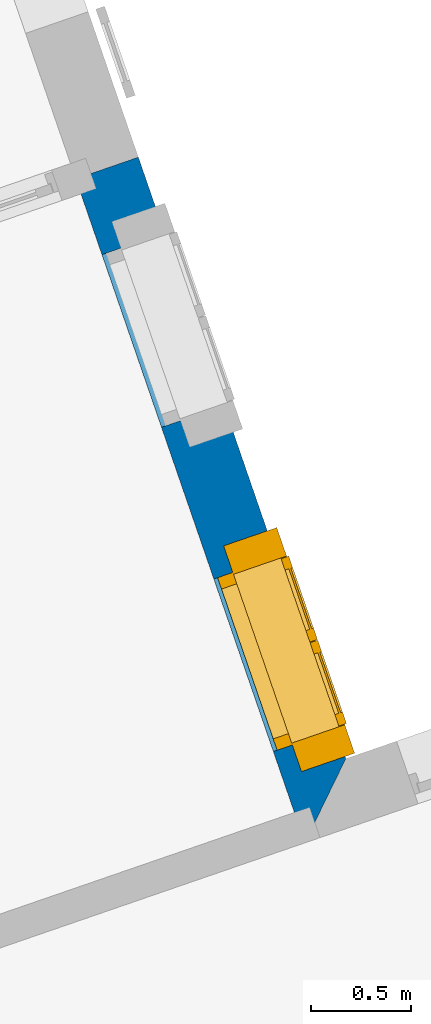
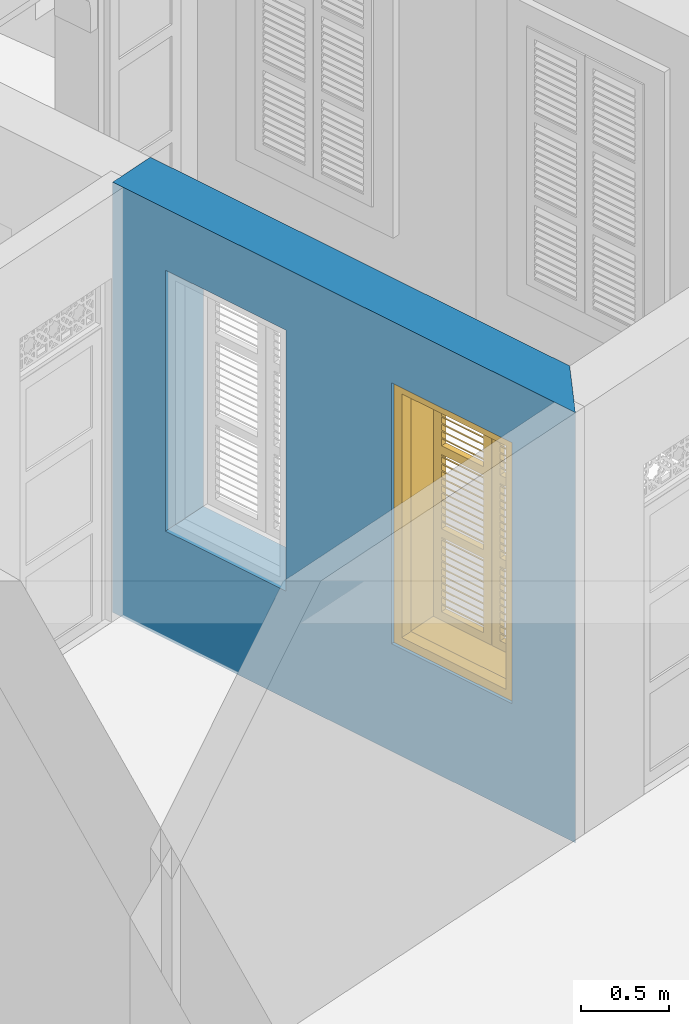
# One storey, part 7 of 16: 1 wall, 1 window, 2 openings.
"""IFC4 building model written with IfcOpenShell, lengths in metres."""

from ifc_helpers import new_model, si_unit, frame, origin, origin_with_axes, place, context, subcontext, project, spatial, polyline, outline, extrude, faceted_brep, source, transform, mapped, material, layer, layer_set, layer_usage, type_object, type_shapes, element, fill, save


model = new_model("IFC4")

# Units and contexts
model_context = context("Model", 3, world=origin_with_axes())
body_context = subcontext(model_context, "Body", "Model", "MODEL_VIEW")
ifc_project = project(units=[si_unit("PLANEANGLEUNIT", "RADIAN"), si_unit("MASSUNIT", "GRAM", prefix="KILO"), si_unit("FORCEUNIT", "NEWTON", prefix="KILO"), si_unit("LENGTHUNIT", "METRE"), si_unit("AREAUNIT", "SQUARE_METRE"), si_unit("VOLUMEUNIT", "CUBIC_METRE")], contexts=[model_context, model_context])

# Site, building, storey
site_placement = place(None, origin_with_axes())
site = spatial("IfcSite", under=ifc_project, at=site_placement, Name="Site plot-8", CompositionType="ELEMENT")
building_placement = place(None, origin_with_axes())
building = spatial("IfcBuilding", under=site, at=building_placement, Name="Building plot-8", CompositionType="ELEMENT")
storey_placement = place(None, origin_with_axes())
storey = spatial("IfcBuildingStorey", under=building, at=storey_placement, Name="plot-8 0", CompositionType="ELEMENT", Elevation=0.0)

# Wall, openings, window
ifc_material = material(Name="Masonry")
ifc_layer = layer(ifc_material, 0.33, ventilated=False)
ifc_layer_set = layer_set([ifc_layer], Name="exterior_0.08_0.25")
ifc_layer_usage = layer_usage(ifc_layer_set, "AXIS2", "POSITIVE", -0.25)
wall_type = type_object("IfcWallType", Name="exterior_0.08_0.25", PredefinedType="SOLIDWALL", material=ifc_layer_set)
wall_placement = place(storey_placement, frame((-9.69136528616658, 15.0297125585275, 0.0), z_axis=(0.0, 0.0, 1.0), x_axis=(-0.326112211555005, 0.945331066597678, 0.0)))
wall = element("IfcWall", 1, at=wall_placement, inside=storey, type_object=wall_type, material=ifc_layer_usage, Name="exterior", context=body_context, shape_type="SweptSolid", body=[
    extrude(outline(polyline([(-0.0799999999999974, 0.0799999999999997), (0.249999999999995, -0.250000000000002), (3.42187846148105, -0.25), (3.42187846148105, 0.0800000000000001), (-0.0799999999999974, 0.0799999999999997)])), origin_with_axes(), (0.0, 0.0, 1.0), 3.0),
])
opening_1_placement = place(wall_placement, frame((0.401408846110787, 0.0, 0.75)))
opening_1 = element("IfcOpeningElement", 2, at=opening_1_placement, cuts=wall, Name="My Opening", ObjectType="Opening", context=body_context, shape_type="SweptSolid", body=[
    extrude(outline(polyline([(0.0, -0.27), (0.909999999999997, -0.269999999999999), (0.909999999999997, 1.1), (-7.21644966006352e-16, 1.1), (0.0, -0.27)])), origin_with_axes(), (0.0, 0.0, 1.0), 1.82),
])
opening_2_placement = place(wall_placement, frame((2.11140884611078, 0.0, 0.75)))
element("IfcOpeningElement", 3, at=opening_2_placement, cuts=wall, Name="My Opening", ObjectType="Opening", context=body_context, shape_type="SweptSolid", body=[
    extrude(outline(polyline([(0.0, -0.269999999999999), (0.909999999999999, -0.269999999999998), (0.91, 1.1), (1.33226762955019e-15, 1.1), (0.0, -0.269999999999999)])), origin_with_axes(), (0.0, 0.0, 1.0), 1.82),
])
window_type = type_object("IfcWindowType", Name="shuttered_big", PartitioningType="DOUBLE_PANEL_HORIZONTAL", PredefinedType="NOTDEFINED")
shared_shape = source(origin(), body_context, "Body", "Brep", [
    faceted_brep([(0.074, 0.0, 0.810667), (0.393, 0.0, 0.810667), (0.393, 0.0, 0.800667), (0.074, 0.0, 0.800667), (0.074, -0.04, 0.770667), (0.393, -0.04, 0.770667), (0.393, -0.04, 0.760667), (0.074, -0.04, 0.760667), (0.517, 0.0, 0.232), (0.836, 0.0, 0.232), (0.836, 0.0, 0.222), (0.517, 0.0, 0.222), (0.517, -0.04, 0.192), (0.836, -0.04, 0.192), (0.836, -0.04, 0.182), (0.517, -0.04, 0.182), (0.517, 0.0, 0.532), (0.836, 0.0, 0.532), (0.836, 0.0, 0.522), (0.517, 0.0, 0.522), (0.517, -0.04, 0.492), (0.836, -0.04, 0.492), (0.836, -0.04, 0.482), (0.517, -0.04, 0.482), (0.517, 0.0, 0.482), (0.836, 0.0, 0.482), (0.836, 0.0, 0.472), (0.517, 0.0, 0.472), (0.517, -0.04, 0.442), (0.836, -0.04, 0.442), (0.836, -0.04, 0.432), (0.517, -0.04, 0.432), (0.517, 0.0, 0.582), (0.836, 0.0, 0.582), (0.836, 0.0, 0.572), (0.517, 0.0, 0.572), (0.517, -0.04, 0.542), (0.836, -0.04, 0.542), (0.836, -0.04, 0.532), (0.517, -0.04, 0.532), (0.517, 0.0, 0.182), (0.836, 0.0, 0.182), (0.836, 0.0, 0.172), (0.517, 0.0, 0.172), (0.517, -0.04, 0.142), (0.836, -0.04, 0.142), (0.836, -0.04, 0.132), (0.517, -0.04, 0.132), (0.517, 0.0, 0.382), (0.836, 0.0, 0.382), (0.836, 0.0, 0.372), (0.517, 0.0, 0.372), (0.517, -0.04, 0.342), (0.836, -0.04, 0.342), (0.836, -0.04, 0.332), (0.517, -0.04, 0.332), (0.517, 0.0, 0.432), (0.836, 0.0, 0.432), (0.836, 0.0, 0.422), (0.517, 0.0, 0.422), (0.517, -0.04, 0.392), (0.836, -0.04, 0.392), (0.836, -0.04, 0.382), (0.517, -0.04, 0.382), (0.517, 0.0, 0.132), (0.836, 0.0, 0.132), (0.836, 0.0, 0.122), (0.517, 0.0, 0.122), (0.517, -0.04, 0.092), (0.836, -0.04, 0.092), (0.836, -0.04, 0.082), (0.517, -0.04, 0.082), (0.517, 0.0, 0.282), (0.836, 0.0, 0.282), (0.836, 0.0, 0.272), (0.517, 0.0, 0.272), (0.517, -0.04, 0.242), (0.836, -0.04, 0.242), (0.836, -0.04, 0.232), (0.517, -0.04, 0.232), (0.517, 0.0, 0.332), (0.836, 0.0, 0.332), (0.836, 0.0, 0.322), (0.517, 0.0, 0.322), (0.517, -0.04, 0.292), (0.836, -0.04, 0.292), (0.836, -0.04, 0.282), (0.517, -0.04, 0.282), (0.517, 0.0, 0.810667), (0.836, 0.0, 0.810667), (0.836, 0.0, 0.800667), (0.517, 0.0, 0.800667), (0.517, -0.04, 0.770667), (0.836, -0.04, 0.770667), (0.836, -0.04, 0.760667), (0.517, -0.04, 0.760667), (0.517, 0.0, 1.110667), (0.836, 0.0, 1.110667), (0.836, 0.0, 1.100667), (0.517, 0.0, 1.100667), (0.517, -0.04, 1.070667), (0.836, -0.04, 1.070667), (0.836, -0.04, 1.060667), (0.517, -0.04, 1.060667), (0.517, 0.0, 1.060667), (0.836, 0.0, 1.060667), (0.836, 0.0, 1.050667), (0.517, 0.0, 1.050667), (0.517, -0.04, 1.020667), (0.836, -0.04, 1.020667), (0.836, -0.04, 1.010667), (0.517, -0.04, 1.010667), (0.517, 0.0, 1.160667), (0.836, 0.0, 1.160667), (0.836, 0.0, 1.150667), (0.517, 0.0, 1.150667), (0.517, -0.04, 1.120667), (0.836, -0.04, 1.120667), (0.836, -0.04, 1.110667), (0.517, -0.04, 1.110667), (0.517, 0.0, 0.760667), (0.836, 0.0, 0.760667), (0.836, 0.0, 0.750667), (0.517, 0.0, 0.750667), (0.517, -0.04, 0.720667), (0.836, -0.04, 0.720667), (0.836, -0.04, 0.710667), (0.517, -0.04, 0.710667), (0.517, 0.0, 0.960667), (0.836, 0.0, 0.960667), (0.836, 0.0, 0.950667), (0.517, 0.0, 0.950667), (0.517, -0.04, 0.920667), (0.836, -0.04, 0.920667), (0.836, -0.04, 0.910667), (0.517, -0.04, 0.910667), (0.517, 0.0, 1.010667), (0.836, 0.0, 1.010667), (0.836, 0.0, 1.0), (0.517, 0.0, 1.0), (0.517, -0.04, 0.970667), (0.836, -0.04, 0.970667), (0.836, -0.04, 0.960667), (0.517, -0.04, 0.960667), (0.517, 0.0, 0.710667), (0.836, 0.0, 0.710667), (0.836, 0.0, 0.700667), (0.517, 0.0, 0.700667), (0.517, -0.04, 0.670667), (0.836, -0.04, 0.670667), (0.836, -0.04, 0.660667), (0.517, -0.04, 0.660667), (0.517, 0.0, 0.860667), (0.836, 0.0, 0.860667), (0.836, 0.0, 0.850667), (0.517, 0.0, 0.850667), (0.517, -0.04, 0.820667), (0.836, -0.04, 0.820667), (0.836, -0.04, 0.810667), (0.517, -0.04, 0.810667), (0.517, 0.0, 0.910667), (0.836, 0.0, 0.910667), (0.836, 0.0, 0.900667), (0.517, 0.0, 0.900667), (0.517, -0.04, 0.870667), (0.836, -0.04, 0.870667), (0.836, -0.04, 0.860667), (0.517, -0.04, 0.860667), (0.517, 0.0, 1.389333), (0.836, 0.0, 1.389333), (0.836, 0.0, 1.379333), (0.517, 0.0, 1.379333), (0.517, -0.04, 1.349333), (0.836, -0.04, 1.349333), (0.836, -0.04, 1.339333), (0.517, -0.04, 1.339333), (0.517, 0.0, 1.689333), (0.836, 0.0, 1.689333), (0.836, 0.0, 1.679333), (0.517, 0.0, 1.679333), (0.517, -0.04, 1.649333), (0.836, -0.04, 1.649333), (0.836, -0.04, 1.639333), (0.517, -0.04, 1.639333), (0.517, 0.0, 1.639333), (0.836, 0.0, 1.639333), (0.836, 0.0, 1.629333), (0.517, 0.0, 1.629333), (0.517, -0.04, 1.599333), (0.836, -0.04, 1.599333), (0.836, -0.04, 1.589333), (0.517, -0.04, 1.589333), (0.517, 0.0, 1.739333), (0.836, 0.0, 1.739333), (0.836, 0.0, 1.729333), (0.517, 0.0, 1.729333), (0.517, -0.04, 1.699333), (0.836, -0.04, 1.699333), (0.836, -0.04, 1.689333), (0.517, -0.04, 1.689333), (0.517, 0.0, 1.339333), (0.836, 0.0, 1.339333), (0.836, 0.0, 1.329333), (0.517, 0.0, 1.329333), (0.517, -0.04, 1.299333), (0.836, -0.04, 1.299333), (0.836, -0.04, 1.289333), (0.517, -0.04, 1.289333), (0.517, 0.0, 1.539333), (0.836, 0.0, 1.539333), (0.836, 0.0, 1.529333), (0.517, 0.0, 1.529333), (0.517, -0.04, 1.499333), (0.836, -0.04, 1.499333), (0.836, -0.04, 1.489333), (0.517, -0.04, 1.489333), (0.517, 0.0, 1.589333), (0.836, 0.0, 1.589333), (0.836, 0.0, 1.579333), (0.517, 0.0, 1.579333), (0.517, -0.04, 1.549333), (0.836, -0.04, 1.549333), (0.836, -0.04, 1.539333), (0.517, -0.04, 1.539333), (0.517, 0.0, 1.289333), (0.836, 0.0, 1.289333), (0.836, 0.0, 1.279333), (0.517, 0.0, 1.279333), (0.517, -0.04, 1.249333), (0.836, -0.04, 1.249333), (0.836, -0.04, 1.239333), (0.517, -0.04, 1.239333), (0.517, 0.0, 1.439333), (0.836, 0.0, 1.439333), (0.836, 0.0, 1.429333), (0.517, 0.0, 1.429333), (0.517, -0.04, 1.399333), (0.836, -0.04, 1.399333), (0.836, -0.04, 1.389333), (0.517, -0.04, 1.389333), (0.517, 0.0, 1.489333), (0.836, 0.0, 1.489333), (0.836, 0.0, 1.479333), (0.517, 0.0, 1.479333), (0.517, -0.04, 1.449333), (0.836, -0.04, 1.449333), (0.836, -0.04, 1.439333), (0.517, -0.04, 1.439333), (0.074, 0.0, 0.232), (0.393, 0.0, 0.232), (0.393, 0.0, 0.222), (0.074, 0.0, 0.222), (0.074, -0.04, 0.192), (0.393, -0.04, 0.192), (0.393, -0.04, 0.182), (0.074, -0.04, 0.182), (0.074, 0.0, 0.532), (0.393, 0.0, 0.532), (0.393, 0.0, 0.522), (0.074, 0.0, 0.522), (0.074, -0.04, 0.492), (0.393, -0.04, 0.492), (0.393, -0.04, 0.482), (0.074, -0.04, 0.482), (0.074, 0.0, 0.482), (0.393, 0.0, 0.482), (0.393, 0.0, 0.472), (0.074, 0.0, 0.472), (0.074, -0.04, 0.442), (0.393, -0.04, 0.442), (0.393, -0.04, 0.432), (0.074, -0.04, 0.432), (0.074, 0.0, 0.582), (0.393, 0.0, 0.582), (0.393, 0.0, 0.572), (0.074, 0.0, 0.572), (0.074, -0.04, 0.542), (0.393, -0.04, 0.542), (0.393, -0.04, 0.532), (0.074, -0.04, 0.532), (0.074, 0.0, 0.182), (0.393, 0.0, 0.182), (0.393, 0.0, 0.172), (0.074, 0.0, 0.172), (0.074, -0.04, 0.142), (0.393, -0.04, 0.142), (0.393, -0.04, 0.132), (0.074, -0.04, 0.132), (0.074, 0.0, 0.382), (0.393, 0.0, 0.382), (0.393, 0.0, 0.372), (0.074, 0.0, 0.372), (0.074, -0.04, 0.342), (0.393, -0.04, 0.342), (0.393, -0.04, 0.332), (0.074, -0.04, 0.332), (0.074, 0.0, 0.432), (0.393, 0.0, 0.432), (0.393, 0.0, 0.422), (0.074, 0.0, 0.422), (0.074, -0.04, 0.392), (0.393, -0.04, 0.392), (0.393, -0.04, 0.382), (0.074, -0.04, 0.382), (0.074, 0.0, 0.132), (0.393, 0.0, 0.132), (0.393, 0.0, 0.122), (0.074, 0.0, 0.122), (0.074, -0.04, 0.092), (0.393, -0.04, 0.092), (0.393, -0.04, 0.082), (0.074, -0.04, 0.082), (0.074, 0.0, 0.282), (0.393, 0.0, 0.282), (0.393, 0.0, 0.272), (0.074, 0.0, 0.272), (0.074, -0.04, 0.242), (0.393, -0.04, 0.242), (0.393, -0.04, 0.232), (0.074, -0.04, 0.232), (0.074, 0.0, 0.332), (0.393, 0.0, 0.332), (0.393, 0.0, 0.322), (0.074, 0.0, 0.322), (0.074, -0.04, 0.292), (0.393, -0.04, 0.292), (0.393, -0.04, 0.282), (0.074, -0.04, 0.282), (0.074, 0.0, 1.110667), (0.393, 0.0, 1.110667), (0.393, 0.0, 1.100667), (0.074, 0.0, 1.100667), (0.074, -0.04, 1.070667), (0.393, -0.04, 1.070667), (0.393, -0.04, 1.060667), (0.074, -0.04, 1.060667), (0.074, 0.0, 1.060667), (0.393, 0.0, 1.060667), (0.393, 0.0, 1.050667), (0.074, 0.0, 1.050667), (0.074, -0.04, 1.020667), (0.393, -0.04, 1.020667), (0.393, -0.04, 1.010667), (0.074, -0.04, 1.010667), (0.074, 0.0, 1.160667), (0.393, 0.0, 1.160667), (0.393, 0.0, 1.150667), (0.074, 0.0, 1.150667), (0.074, -0.04, 1.120667), (0.393, -0.04, 1.120667), (0.393, -0.04, 1.110667), (0.074, -0.04, 1.110667), (0.074, 0.0, 0.760667), (0.393, 0.0, 0.760667), (0.393, 0.0, 0.750667), (0.074, 0.0, 0.750667), (0.074, -0.04, 0.720667), (0.393, -0.04, 0.720667), (0.393, -0.04, 0.710667), (0.074, -0.04, 0.710667), (0.074, 0.0, 0.960667), (0.393, 0.0, 0.960667), (0.393, 0.0, 0.950667), (0.074, 0.0, 0.950667), (0.074, -0.04, 0.920667), (0.393, -0.04, 0.920667), (0.393, -0.04, 0.910667), (0.074, -0.04, 0.910667), (0.074, 0.0, 1.010667), (0.393, 0.0, 1.010667), (0.393, 0.0, 1.0), (0.074, 0.0, 1.0), (0.074, -0.04, 0.970667), (0.393, -0.04, 0.970667), (0.393, -0.04, 0.960667), (0.074, -0.04, 0.960667), (0.074, 0.0, 0.710667), (0.393, 0.0, 0.710667), (0.393, 0.0, 0.700667), (0.074, 0.0, 0.700667), (0.074, -0.04, 0.670667), (0.393, -0.04, 0.670667), (0.393, -0.04, 0.660667), (0.074, -0.04, 0.660667), (0.074, 0.0, 0.860667), (0.393, 0.0, 0.860667), (0.393, 0.0, 0.850667), (0.074, 0.0, 0.850667), (0.074, -0.04, 0.820667), (0.393, -0.04, 0.820667), (0.393, -0.04, 0.810667), (0.074, -0.04, 0.810667), (0.074, 0.0, 0.910667), (0.393, 0.0, 0.910667), (0.393, 0.0, 0.900667), (0.074, 0.0, 0.900667), (0.074, -0.04, 0.870667), (0.393, -0.04, 0.870667), (0.393, -0.04, 0.860667), (0.074, -0.04, 0.860667), (0.074, 0.0, 1.389333), (0.393, 0.0, 1.389333), (0.393, 0.0, 1.379333), (0.074, 0.0, 1.379333), (0.074, -0.04, 1.349333), (0.393, -0.04, 1.349333), (0.393, -0.04, 1.339333), (0.074, -0.04, 1.339333), (0.074, 0.0, 1.689333), (0.393, 0.0, 1.689333), (0.393, 0.0, 1.679333), (0.074, 0.0, 1.679333), (0.074, -0.04, 1.649333), (0.393, -0.04, 1.649333), (0.393, -0.04, 1.639333), (0.074, -0.04, 1.639333), (0.074, 0.0, 1.639333), (0.393, 0.0, 1.639333), (0.393, 0.0, 1.629333), (0.074, 0.0, 1.629333), (0.074, -0.04, 1.599333), (0.393, -0.04, 1.599333), (0.393, -0.04, 1.589333), (0.074, -0.04, 1.589333), (0.074, 0.0, 1.739333), (0.393, 0.0, 1.739333), (0.393, 0.0, 1.729333), (0.074, 0.0, 1.729333), (0.074, -0.04, 1.699333), (0.393, -0.04, 1.699333), (0.393, -0.04, 1.689333), (0.074, -0.04, 1.689333), (0.074, 0.0, 1.339333), (0.393, 0.0, 1.339333), (0.393, 0.0, 1.329333), (0.074, 0.0, 1.329333), (0.074, -0.04, 1.299333), (0.393, -0.04, 1.299333), (0.393, -0.04, 1.289333), (0.074, -0.04, 1.289333), (0.074, 0.0, 1.539333), (0.393, 0.0, 1.539333), (0.393, 0.0, 1.529333), (0.074, 0.0, 1.529333), (0.074, -0.04, 1.499333), (0.393, -0.04, 1.499333), (0.393, -0.04, 1.489333), (0.074, -0.04, 1.489333), (0.074, 0.0, 1.589333), (0.393, 0.0, 1.589333), (0.393, 0.0, 1.579333), (0.074, 0.0, 1.579333), (0.074, -0.04, 1.549333), (0.393, -0.04, 1.549333), (0.393, -0.04, 1.539333), (0.074, -0.04, 1.539333), (0.074, 0.0, 1.289333), (0.393, 0.0, 1.289333), (0.393, 0.0, 1.279333), (0.074, 0.0, 1.279333), (0.074, -0.04, 1.249333), (0.393, -0.04, 1.249333), (0.393, -0.04, 1.239333), (0.074, -0.04, 1.239333), (0.074, 0.0, 1.439333), (0.393, 0.0, 1.439333), (0.393, 0.0, 1.429333), (0.074, 0.0, 1.429333), (0.074, -0.04, 1.399333), (0.393, -0.04, 1.399333), (0.393, -0.04, 1.389333), (0.074, -0.04, 1.389333), (0.074, 0.0, 1.489333), (0.393, 0.0, 1.489333), (0.393, 0.0, 1.479333), (0.074, 0.0, 1.479333), (0.074, -0.04, 1.449333), (0.393, -0.04, 1.449333), (0.393, -0.04, 1.439333), (0.074, -0.04, 1.439333), (0.517, -0.04, 0.072), (0.457, -0.04, 0.012), (0.896, -0.04, 0.012), (0.836, -0.04, 0.072), (0.457, -0.04, 0.590667), (0.517, -0.04, 0.590667), (0.457, 0.0, 0.012), (0.896, 0.0, 0.012), (0.836, -0.04, 0.590667), (0.896, -0.04, 0.590667), (0.836, 0.0, 0.072), (0.517, 0.0, 0.072), (0.457, 0.0, 0.590667), (0.517, 0.0, 0.590667), (0.517, -0.04, 0.650667), (0.457, -0.04, 0.650667), (0.896, 0.0, 0.590667), (0.836, 0.0, 0.590667), (0.836, -0.04, 0.650667), (0.896, -0.04, 0.650667), (0.457, 0.0, 0.650667), (0.457, -0.04, 1.169333), (0.517, -0.04, 1.169333), (0.896, 0.0, 0.650667), (0.836, -0.04, 1.169333), (0.896, -0.04, 1.169333), (0.457, 0.0, 1.169333), (0.517, 0.0, 0.650667), (0.836, 0.0, 0.650667), (0.517, 0.0, 1.169333), (0.517, -0.04, 1.229333), (0.457, -0.04, 1.229333), (0.896, 0.0, 1.169333), (0.836, 0.0, 1.169333), (0.836, -0.04, 1.229333), (0.896, -0.04, 1.229333), (0.457, 0.0, 1.229333), (0.517, -0.04, 1.748), (0.457, -0.04, 1.808), (0.896, 0.0, 1.229333), (0.896, -0.04, 1.808), (0.836, -0.04, 1.748), (0.457, 0.0, 1.808), (0.517, 0.0, 1.229333), (0.836, 0.0, 1.229333), (0.517, 0.0, 1.748), (0.896, 0.0, 1.808), (0.836, 0.0, 1.748), (0.074, -0.04, 0.072), (0.014, -0.04, 0.012), (0.453, -0.04, 0.012), (0.393, -0.04, 0.072), (0.014, -0.04, 0.590667), (0.074, -0.04, 0.590667), (0.014, 0.0, 0.012), (0.453, 0.0, 0.012), (0.393, -0.04, 0.590667), (0.453, -0.04, 0.590667), (0.393, 0.0, 0.072), (0.074, 0.0, 0.072), (0.014, 0.0, 0.590667), (0.074, 0.0, 0.590667), (0.074, -0.04, 0.650667), (0.014, -0.04, 0.650667), (0.453, 0.0, 0.590667), (0.393, 0.0, 0.590667), (0.393, -0.04, 0.650667), (0.453, -0.04, 0.650667), (0.014, 0.0, 0.650667), (0.014, -0.04, 1.169333), (0.074, -0.04, 1.169333), (0.453, 0.0, 0.650667), (0.393, -0.04, 1.169333), (0.453, -0.04, 1.169333), (0.014, 0.0, 1.169333), (0.074, 0.0, 0.650667), (0.393, 0.0, 0.650667), (0.074, 0.0, 1.169333), (0.074, -0.04, 1.229333), (0.014, -0.04, 1.229333), (0.453, 0.0, 1.169333), (0.393, 0.0, 1.169333), (0.393, -0.04, 1.229333), (0.453, -0.04, 1.229333), (0.014, 0.0, 1.229333), (0.074, -0.04, 1.748), (0.014, -0.04, 1.808), (0.453, 0.0, 1.229333), (0.453, -0.04, 1.808), (0.393, -0.04, 1.748), (0.014, 0.0, 1.808), (0.074, 0.0, 1.229333), (0.393, 0.0, 1.229333), (0.074, 0.0, 1.748), (0.453, 0.0, 1.808), (0.393, 0.0, 1.748), (0.0, 0.33, 1.82), (0.91, 0.33, 1.82), (0.85, 0.33, 1.76), (0.06, 0.33, 1.76), (1.05, -0.03, 1.96), (1.05, 0.25, 1.96), (-0.14, 0.25, 1.96), (-0.14, -0.03, 1.96), (0.0, 0.25, 1.82), (0.91, 0.25, 1.82), (0.9, 0.25, 1.81), (0.01, 0.25, 1.81), (0.85, 0.33, 0.06), (0.91, 0.33, 0.0), (0.85, 0.25, 1.76), (0.06, 0.25, 1.76), (0.0, 0.33, 0.0), (0.06, 0.33, 0.06), (0.0, 0.25, 0.0), (0.910046, 0.25, 1.82), (0.91, 0.25, 0.0), (0.85, 0.25, 0.06), (0.06, 0.25, 0.06), (0.9, 0.25, 0.01), (0.9, -0.03, 0.01), (0.9, -0.03, 1.81), (0.01, -0.03, 0.01), (-0.14, -0.03, -0.14), (1.05, -0.03, -0.14), (0.01, -0.03, 1.81), (0.01, 0.25, 0.01), (1.05, 0.25, -0.14), (-0.14, 0.25, -0.14)], [[[0, 1, 2, 3]], [[1, 0, 4, 5]], [[2, 1, 5, 6]], [[6, 7, 3, 2]], [[7, 4, 0, 3]], [[5, 4, 7, 6]], [[8, 9, 10, 11]], [[12, 13, 9, 8]], [[13, 14, 10, 9]], [[14, 15, 11, 10]], [[15, 12, 8, 11]], [[13, 12, 15, 14]], [[16, 17, 18, 19]], [[20, 21, 17, 16]], [[21, 22, 18, 17]], [[22, 23, 19, 18]], [[23, 20, 16, 19]], [[21, 20, 23, 22]], [[24, 25, 26, 27]], [[28, 29, 25, 24]], [[29, 30, 26, 25]], [[30, 31, 27, 26]], [[31, 28, 24, 27]], [[29, 28, 31, 30]], [[32, 33, 34, 35]], [[36, 37, 33, 32]], [[37, 38, 34, 33]], [[38, 39, 35, 34]], [[39, 36, 32, 35]], [[37, 36, 39, 38]], [[40, 41, 42, 43]], [[44, 45, 41, 40]], [[45, 46, 42, 41]], [[46, 47, 43, 42]], [[47, 44, 40, 43]], [[45, 44, 47, 46]], [[48, 49, 50, 51]], [[52, 53, 49, 48]], [[53, 54, 50, 49]], [[54, 55, 51, 50]], [[55, 52, 48, 51]], [[53, 52, 55, 54]], [[56, 57, 58, 59]], [[60, 61, 57, 56]], [[61, 62, 58, 57]], [[62, 63, 59, 58]], [[63, 60, 56, 59]], [[61, 60, 63, 62]], [[64, 65, 66, 67]], [[68, 69, 65, 64]], [[69, 70, 66, 65]], [[70, 71, 67, 66]], [[71, 68, 64, 67]], [[69, 68, 71, 70]], [[72, 73, 74, 75]], [[76, 77, 73, 72]], [[77, 78, 74, 73]], [[78, 79, 75, 74]], [[79, 76, 72, 75]], [[77, 76, 79, 78]], [[80, 81, 82, 83]], [[84, 85, 81, 80]], [[85, 86, 82, 81]], [[86, 87, 83, 82]], [[87, 84, 80, 83]], [[85, 84, 87, 86]], [[88, 89, 90, 91]], [[92, 93, 89, 88]], [[93, 94, 90, 89]], [[94, 95, 91, 90]], [[95, 92, 88, 91]], [[93, 92, 95, 94]], [[96, 97, 98, 99]], [[100, 101, 97, 96]], [[101, 102, 98, 97]], [[102, 103, 99, 98]], [[103, 100, 96, 99]], [[101, 100, 103, 102]], [[104, 105, 106, 107]], [[108, 109, 105, 104]], [[109, 110, 106, 105]], [[110, 111, 107, 106]], [[111, 108, 104, 107]], [[109, 108, 111, 110]], [[112, 113, 114, 115]], [[116, 117, 113, 112]], [[117, 118, 114, 113]], [[118, 119, 115, 114]], [[119, 116, 112, 115]], [[117, 116, 119, 118]], [[120, 121, 122, 123]], [[124, 125, 121, 120]], [[125, 126, 122, 121]], [[126, 127, 123, 122]], [[127, 124, 120, 123]], [[125, 124, 127, 126]], [[128, 129, 130, 131]], [[132, 133, 129, 128]], [[133, 134, 130, 129]], [[134, 135, 131, 130]], [[135, 132, 128, 131]], [[133, 132, 135, 134]], [[136, 137, 138, 139]], [[140, 141, 137, 136]], [[141, 142, 138, 137]], [[142, 143, 139, 138]], [[143, 140, 136, 139]], [[141, 140, 143, 142]], [[144, 145, 146, 147]], [[148, 149, 145, 144]], [[149, 150, 146, 145]], [[150, 151, 147, 146]], [[151, 148, 144, 147]], [[149, 148, 151, 150]], [[152, 153, 154, 155]], [[156, 157, 153, 152]], [[157, 158, 154, 153]], [[158, 159, 155, 154]], [[159, 156, 152, 155]], [[157, 156, 159, 158]], [[160, 161, 162, 163]], [[164, 165, 161, 160]], [[165, 166, 162, 161]], [[166, 167, 163, 162]], [[167, 164, 160, 163]], [[165, 164, 167, 166]], [[168, 169, 170, 171]], [[172, 173, 169, 168]], [[173, 174, 170, 169]], [[174, 175, 171, 170]], [[175, 172, 168, 171]], [[173, 172, 175, 174]], [[176, 177, 178, 179]], [[180, 181, 177, 176]], [[181, 182, 178, 177]], [[182, 183, 179, 178]], [[183, 180, 176, 179]], [[181, 180, 183, 182]], [[184, 185, 186, 187]], [[188, 189, 185, 184]], [[189, 190, 186, 185]], [[190, 191, 187, 186]], [[191, 188, 184, 187]], [[189, 188, 191, 190]], [[192, 193, 194, 195]], [[196, 197, 193, 192]], [[197, 198, 194, 193]], [[198, 199, 195, 194]], [[199, 196, 192, 195]], [[197, 196, 199, 198]], [[200, 201, 202, 203]], [[204, 205, 201, 200]], [[205, 206, 202, 201]], [[206, 207, 203, 202]], [[207, 204, 200, 203]], [[205, 204, 207, 206]], [[208, 209, 210, 211]], [[212, 213, 209, 208]], [[213, 214, 210, 209]], [[214, 215, 211, 210]], [[215, 212, 208, 211]], [[213, 212, 215, 214]], [[216, 217, 218, 219]], [[220, 221, 217, 216]], [[221, 222, 218, 217]], [[222, 223, 219, 218]], [[223, 220, 216, 219]], [[221, 220, 223, 222]], [[224, 225, 226, 227]], [[228, 229, 225, 224]], [[229, 230, 226, 225]], [[230, 231, 227, 226]], [[231, 228, 224, 227]], [[229, 228, 231, 230]], [[232, 233, 234, 235]], [[236, 237, 233, 232]], [[237, 238, 234, 233]], [[238, 239, 235, 234]], [[239, 236, 232, 235]], [[237, 236, 239, 238]], [[240, 241, 242, 243]], [[244, 245, 241, 240]], [[245, 246, 242, 241]], [[246, 247, 243, 242]], [[247, 244, 240, 243]], [[245, 244, 247, 246]], [[248, 249, 250, 251]], [[252, 253, 249, 248]], [[253, 254, 250, 249]], [[254, 255, 251, 250]], [[255, 252, 248, 251]], [[253, 252, 255, 254]], [[256, 257, 258, 259]], [[260, 261, 257, 256]], [[261, 262, 258, 257]], [[262, 263, 259, 258]], [[263, 260, 256, 259]], [[261, 260, 263, 262]], [[264, 265, 266, 267]], [[268, 269, 265, 264]], [[269, 270, 266, 265]], [[270, 271, 267, 266]], [[271, 268, 264, 267]], [[269, 268, 271, 270]], [[272, 273, 274, 275]], [[276, 277, 273, 272]], [[277, 278, 274, 273]], [[278, 279, 275, 274]], [[279, 276, 272, 275]], [[277, 276, 279, 278]], [[280, 281, 282, 283]], [[284, 285, 281, 280]], [[285, 286, 282, 281]], [[286, 287, 283, 282]], [[287, 284, 280, 283]], [[285, 284, 287, 286]], [[288, 289, 290, 291]], [[292, 293, 289, 288]], [[293, 294, 290, 289]], [[294, 295, 291, 290]], [[295, 292, 288, 291]], [[293, 292, 295, 294]], [[296, 297, 298, 299]], [[300, 301, 297, 296]], [[301, 302, 298, 297]], [[302, 303, 299, 298]], [[303, 300, 296, 299]], [[301, 300, 303, 302]], [[304, 305, 306, 307]], [[308, 309, 305, 304]], [[309, 310, 306, 305]], [[310, 311, 307, 306]], [[311, 308, 304, 307]], [[309, 308, 311, 310]], [[312, 313, 314, 315]], [[316, 317, 313, 312]], [[317, 318, 314, 313]], [[318, 319, 315, 314]], [[319, 316, 312, 315]], [[317, 316, 319, 318]], [[320, 321, 322, 323]], [[324, 325, 321, 320]], [[325, 326, 322, 321]], [[326, 327, 323, 322]], [[327, 324, 320, 323]], [[325, 324, 327, 326]], [[328, 329, 330, 331]], [[332, 333, 329, 328]], [[333, 334, 330, 329]], [[334, 335, 331, 330]], [[335, 332, 328, 331]], [[333, 332, 335, 334]], [[336, 337, 338, 339]], [[340, 341, 337, 336]], [[341, 342, 338, 337]], [[342, 343, 339, 338]], [[343, 340, 336, 339]], [[341, 340, 343, 342]], [[344, 345, 346, 347]], [[348, 349, 345, 344]], [[349, 350, 346, 345]], [[350, 351, 347, 346]], [[351, 348, 344, 347]], [[349, 348, 351, 350]], [[352, 353, 354, 355]], [[356, 357, 353, 352]], [[357, 358, 354, 353]], [[358, 359, 355, 354]], [[359, 356, 352, 355]], [[357, 356, 359, 358]], [[360, 361, 362, 363]], [[364, 365, 361, 360]], [[365, 366, 362, 361]], [[366, 367, 363, 362]], [[367, 364, 360, 363]], [[366, 365, 364, 367]], [[368, 369, 370, 371]], [[372, 373, 369, 368]], [[373, 374, 370, 369]], [[374, 375, 371, 370]], [[375, 372, 368, 371]], [[373, 372, 375, 374]], [[376, 377, 378, 379]], [[380, 381, 377, 376]], [[381, 382, 378, 377]], [[382, 383, 379, 378]], [[383, 380, 376, 379]], [[381, 380, 383, 382]], [[384, 385, 386, 387]], [[388, 389, 385, 384]], [[389, 390, 386, 385]], [[390, 391, 387, 386]], [[391, 388, 384, 387]], [[389, 388, 391, 390]], [[392, 393, 394, 395]], [[396, 397, 393, 392]], [[397, 398, 394, 393]], [[398, 399, 395, 394]], [[399, 396, 392, 395]], [[397, 396, 399, 398]], [[400, 401, 402, 403]], [[404, 405, 401, 400]], [[405, 406, 402, 401]], [[406, 407, 403, 402]], [[407, 404, 400, 403]], [[405, 404, 407, 406]], [[408, 409, 410, 411]], [[412, 413, 409, 408]], [[413, 414, 410, 409]], [[414, 415, 411, 410]], [[415, 412, 408, 411]], [[414, 413, 412, 415]], [[416, 417, 418, 419]], [[420, 421, 417, 416]], [[421, 422, 418, 417]], [[422, 423, 419, 418]], [[423, 420, 416, 419]], [[421, 420, 423, 422]], [[424, 425, 426, 427]], [[428, 429, 425, 424]], [[429, 430, 426, 425]], [[430, 431, 427, 426]], [[431, 428, 424, 427]], [[429, 428, 431, 430]], [[432, 433, 434, 435]], [[436, 437, 433, 432]], [[437, 438, 434, 433]], [[438, 439, 435, 434]], [[439, 436, 432, 435]], [[437, 436, 439, 438]], [[440, 441, 442, 443]], [[444, 445, 441, 440]], [[445, 446, 442, 441]], [[446, 447, 443, 442]], [[447, 444, 440, 443]], [[445, 444, 447, 446]], [[448, 449, 450, 451]], [[452, 453, 449, 448]], [[453, 454, 450, 449]], [[454, 455, 451, 450]], [[455, 452, 448, 451]], [[453, 452, 455, 454]], [[456, 457, 458, 459]], [[460, 461, 457, 456]], [[461, 462, 458, 457]], [[462, 463, 459, 458]], [[463, 460, 456, 459]], [[461, 460, 463, 462]], [[464, 465, 466, 467]], [[468, 469, 465, 464]], [[469, 470, 466, 465]], [[470, 471, 467, 466]], [[471, 468, 464, 467]], [[469, 468, 471, 470]], [[472, 473, 474, 475]], [[476, 477, 473, 472]], [[477, 478, 474, 473]], [[478, 479, 475, 474]], [[479, 476, 472, 475]], [[477, 476, 479, 478]], [[480, 481, 482, 483]], [[484, 481, 480, 485]], [[486, 487, 482, 481]], [[488, 483, 482, 489]], [[480, 483, 490, 491]], [[486, 481, 484, 492]], [[485, 480, 491, 493]], [[485, 494, 495, 484]], [[486, 491, 490, 487]], [[496, 489, 482, 487]], [[483, 488, 497, 490]], [[498, 488, 489, 499]], [[492, 484, 495, 500]], [[486, 492, 493, 491]], [[488, 485, 493, 497]], [[494, 485, 488, 498]], [[501, 495, 494, 502]], [[490, 497, 496, 487]], [[503, 499, 489, 496]], [[504, 498, 499, 505]], [[500, 495, 501, 506]], [[507, 493, 492, 500]], [[493, 507, 508, 497]], [[494, 498, 508, 507]], [[502, 494, 507, 509]], [[502, 510, 511, 501]], [[497, 508, 503, 496]], [[512, 505, 499, 503]], [[498, 504, 513, 508]], [[514, 504, 505, 515]], [[506, 501, 511, 516]], [[500, 506, 509, 507]], [[504, 502, 509, 513]], [[510, 502, 504, 514]], [[510, 517, 518, 511]], [[508, 513, 512, 503]], [[519, 515, 505, 512]], [[515, 520, 521, 514]], [[516, 511, 518, 522]], [[523, 509, 506, 516]], [[509, 523, 524, 513]], [[510, 514, 524, 523]], [[517, 510, 523, 525]], [[518, 517, 521, 520]], [[513, 524, 519, 512]], [[526, 520, 515, 519]], [[514, 521, 527, 524]], [[522, 518, 520, 526]], [[525, 523, 516, 522]], [[521, 517, 525, 527]], [[526, 519, 524, 527]], [[525, 522, 526, 527]], [[528, 529, 530, 531]], [[532, 529, 528, 533]], [[534, 535, 530, 529]], [[536, 531, 530, 537]], [[528, 531, 538, 539]], [[534, 529, 532, 540]], [[533, 528, 539, 541]], [[533, 542, 543, 532]], [[534, 539, 538, 535]], [[544, 537, 530, 535]], [[531, 536, 545, 538]], [[546, 536, 537, 547]], [[540, 532, 543, 548]], [[534, 540, 541, 539]], [[536, 533, 541, 545]], [[542, 533, 536, 546]], [[549, 543, 542, 550]], [[538, 545, 544, 535]], [[551, 547, 537, 544]], [[552, 546, 547, 553]], [[548, 543, 549, 554]], [[555, 541, 540, 548]], [[541, 555, 556, 545]], [[542, 546, 556, 555]], [[550, 542, 555, 557]], [[550, 558, 559, 549]], [[545, 556, 551, 544]], [[560, 553, 547, 551]], [[546, 552, 561, 556]], [[562, 552, 553, 563]], [[554, 549, 559, 564]], [[548, 554, 557, 555]], [[552, 550, 557, 561]], [[558, 550, 552, 562]], [[558, 565, 566, 559]], [[556, 561, 560, 551]], [[567, 563, 553, 560]], [[563, 568, 569, 562]], [[564, 559, 566, 570]], [[571, 557, 554, 564]], [[557, 571, 572, 561]], [[558, 562, 572, 571]], [[565, 558, 571, 573]], [[566, 565, 569, 568]], [[561, 572, 567, 560]], [[574, 568, 563, 567]], [[562, 569, 575, 572]], [[570, 566, 568, 574]], [[573, 571, 564, 570]], [[569, 565, 573, 575]], [[574, 567, 572, 575]], [[573, 570, 574, 575]], [[576, 577, 578, 579]], [[580, 581, 582, 583]], [[576, 584, 585, 577]], [[582, 581, 586, 587]], [[588, 578, 577, 589]], [[579, 578, 590, 591]], [[592, 576, 579, 593]], [[576, 592, 594, 584]], [[595, 584, 591, 590]], [[596, 585, 595]], [[595, 590, 597]], [[595, 597, 596]], [[589, 577, 585, 596]], [[578, 588, 597, 590]], [[589, 592, 593, 588]], [[593, 579, 591, 598]], [[592, 589, 596, 594]], [[598, 591, 584, 594]], [[594, 596, 597, 598]], [[588, 593, 598, 597]], [[599, 600, 601, 586]], [[602, 603, 604, 600]], [[601, 605, 587, 586]], [[600, 599, 606, 602]], [[607, 604, 603, 608]], [[599, 607, 608, 606]], [[605, 602, 606, 587]], [[602, 605, 583, 603]], [[600, 604, 580, 601]], [[580, 583, 605, 601]], [[606, 608, 582, 587]], [[599, 586, 581, 607]], [[582, 608, 603, 583]], [[580, 604, 607, 581]]]),
])
type_shapes(window_type, [shared_shape])
window_placement = place(storey_placement, frame((-9.56703022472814, 15.497227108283, 0.75), z_axis=(0.0, 0.0, 1.0), x_axis=(-0.296762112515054, 0.860251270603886, 0.0)))
window = element("IfcWindow", 4, at=window_placement, inside=storey, type_object=window_type, Name="toilet sahn window", OverallHeight=1.82, OverallWidth=0.91, context=body_context, shape_type="MappedRepresentation", body=[
    mapped(shared_shape, transform((0.0, 0.0, 0.0), scale=1.0)),
])
fill(opening_1, window)

save(model, "model.ifc")
